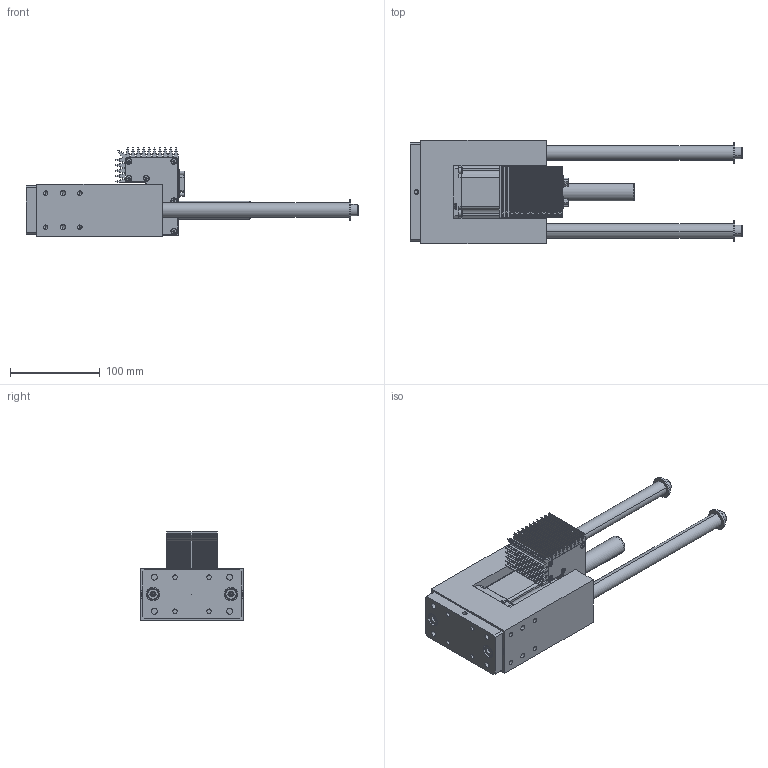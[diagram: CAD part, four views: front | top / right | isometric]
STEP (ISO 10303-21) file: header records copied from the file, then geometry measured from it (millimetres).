
FILE_DESCRIPTION (( 'STEP AP214' ), '1' );
FILE_NAME ('FE23_0004_V00_HUB-200.stp', '2022-03-11T10:46:43', ( '' ), ( '' ), 'SwSTEP 2.0', 'SolidWorks 2020', '' );
FILE_SCHEMA (( 'AUTOMOTIVE_DESIGN' ));
Length unit declared in the file: millimetre
Products named in the file (22): INA_Axial-Rillenkugellager-51104_31_104; FE00_0008_V00_L-080; socket set screw cone point_din_DIN 914 - M4 x 5-N; FE23_0004_V00_HUB-200; socket head cap screw_din_DIN 912 M4 x 16 --- 16N; plain washer large_din_Washer DIN 9021 - 8.4; FE00_0003_V00_HUB-200; socket set screw cone point_din_DIN 914 - M6 x 12-N; FE00_0006_V00; C300_axial_SubD_Ohne Verschlusskappe; WISKA_EVSG_12_7035_10060624; FE00_0004_V00; FE00_0002_V00_HUB-200; INA-FAG_KH16-PP; socket head cap screw_din_DIN 912 M8 x 16 --- 16N; FE00_0005_V00; parallel pin hardened_din_DIN EN 28734 - 3 x 12 - A - St; FE23_0001_V00_HUB-200; spring pin slotted_hd_din_DIN EN 28752 - 2.5 x 16 - St; FE00_0001_V00; socket thin pilot cap screw_din_DIN 6912 - M8 x 20 --- 13N; Kollmorgen_NEMA23_CTP22NSF3INSS02_mit Gewinde
Assembly tree (35 placements, depth 3):
  FE23_0004_V00_HUB-200
    FE23_0001_V00_HUB-200
      FE00_0002_V00_HUB-200
      FE00_0003_V00_HUB-200  x2
      FE00_0001_V00
      FE00_0004_V00
      FE00_0005_V00
      FE00_0006_V00
      INA-FAG_KH16-PP  x4
      socket thin pilot cap screw_din_DIN 6912 - M8 x 20 --- 13N  x2
      INA_Axial-Rillenkugellager-51104_31_104  x2
      parallel pin hardened_din_DIN EN 28734 - 3 x 12 - A - St  x3
      socket set screw cone point_din_DIN 914 - M4 x 5-N
      spring pin slotted_hd_din_DIN EN 28752 - 2.5 x 16 - St
      socket set screw cone point_din_DIN 914 - M6 x 12-N  x2
      plain washer large_din_Washer DIN 9021 - 8.4  x2
      socket head cap screw_din_DIN 912 M8 x 16 --- 16N  x2
    Kollmorgen_NEMA23_CTP22NSF3INSS02_mit Gewinde
    C300_axial_SubD_Ohne Verschlusskappe
    FE00_0008_V00_L-080
    WISKA_EVSG_12_7035_10060624
    socket head cap screw_din_DIN 912 M4 x 16 --- 16N  x4
Bounding box: 370 x 115 x 98.5 mm (x, y, z)
Volume: 1218485.8 mm3; surface area: 321587.3 mm2
Topology: 65 solids, 66 shells, 2509 faces, 6159 edges, 3721 vertices
Faces by surface type: plane 1072, cylinder 742, cone 363, bspline 188, torus 144
Entity records: 81213 total; most frequent: CARTESIAN_POINT 17632, DIRECTION 10271, ORIENTED_EDGE 9740, EDGE_CURVE 4870, AXIS2_PLACEMENT_3D 3769, VERTEX_POINT 3078, VECTOR 2733, LINE 2733
